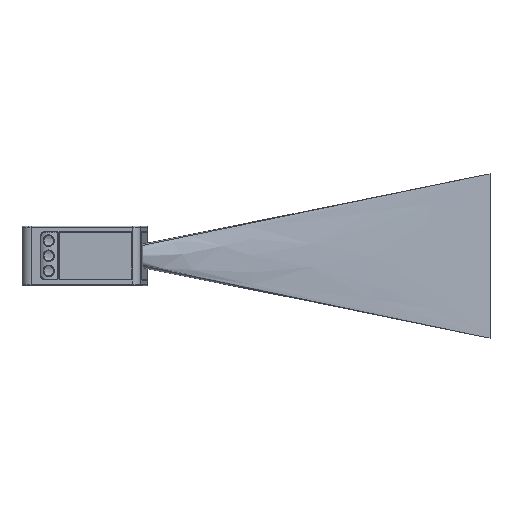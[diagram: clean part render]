
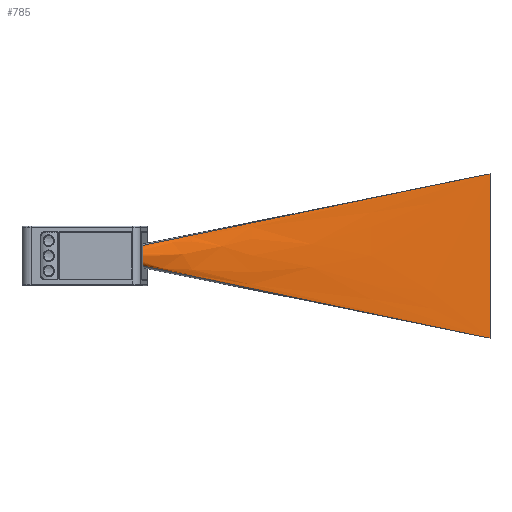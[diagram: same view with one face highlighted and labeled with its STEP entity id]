
A CAD part, top view. The second image highlights one B-rep face of the part: STEP entity #785.
In plain terms, the highlighted free-form (B-spline) face has degree [3, 3] with [10, 4] control points.
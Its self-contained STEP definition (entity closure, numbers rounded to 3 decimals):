
#785 = ADVANCED_FACE( '', ( #1677 ), #1678, .T. );
#1677 = FACE_OUTER_BOUND( '', #5417, .T. );
#1678 = B_SPLINE_SURFACE_WITH_KNOTS( '', 3, 3, ( ( #5418, #5419, #5420, #5421 ), ( #5422, #5423, #5424, #5425 ), ( #5426, #5427, #5428, #5429 ), ( #5430, #5431, #5432, #5433 ), ( #5434, #5435, #5436, #5437 ), ( #5438, #5439, #5440, #5441 ), ( #5442, #5443, #5444, #5445 ), ( #5446, #5447, #5448, #5449 ), ( #5450, #5451, #5452, #5453 ), ( #5454, #5455, #5456, #5457 ) ), .UNSPECIFIED., .F., .F., .F., ( 4, 2, 2, 2, 4 ), ( 4, 4 ), ( 0., 0.25, 0.5, 0.75, 1. ), ( 0., 1. ), .UNSPECIFIED. );
#5417 = EDGE_LOOP( '', ( #8729, #8730, #8731, #8732 ) );
#5418 = CARTESIAN_POINT( '', ( -6.765, 3.668, 31.647 ) );
#5419 = CARTESIAN_POINT( '', ( 45.49, 14.445, 21.598 ) );
#5420 = CARTESIAN_POINT( '', ( 97.745, 25.223, 11.549 ) );
#5421 = CARTESIAN_POINT( '', ( 150., 36., 1.5 ) );
#5422 = CARTESIAN_POINT( '', ( -6.662, 3.324, 32.254 ) );
#5423 = CARTESIAN_POINT( '', ( 45.559, 12.216, 22.002 ) );
#5424 = CARTESIAN_POINT( '', ( 97.779, 21.108, 11.751 ) );
#5425 = CARTESIAN_POINT( '', ( 150., 30., 1.5 ) );
#5426 = CARTESIAN_POINT( '', ( -6.573, 2.824, 32.772 ) );
#5427 = CARTESIAN_POINT( '', ( 45.618, 9.883, 22.348 ) );
#5428 = CARTESIAN_POINT( '', ( 97.809, 16.941, 11.924 ) );
#5429 = CARTESIAN_POINT( '', ( 150., 24., 1.5 ) );
#5430 = CARTESIAN_POINT( '', ( -6.447, 1.631, 33.508 ) );
#5431 = CARTESIAN_POINT( '', ( 45.702, 5.087, 22.839 ) );
#5432 = CARTESIAN_POINT( '', ( 97.851, 8.544, 12.169 ) );
#5433 = CARTESIAN_POINT( '', ( 150., 12., 1.5 ) );
#5434 = CARTESIAN_POINT( '', ( -6.41, 0.939, 33.724 ) );
#5435 = CARTESIAN_POINT( '', ( 45.727, 2.626, 22.983 ) );
#5436 = CARTESIAN_POINT( '', ( 97.863, 4.313, 12.241 ) );
#5437 = CARTESIAN_POINT( '', ( 150., 6., 1.5 ) );
#5438 = CARTESIAN_POINT( '', ( -6.397, -0.467, 33.802 ) );
#5439 = CARTESIAN_POINT( '', ( 45.735, -2.311, 23.035 ) );
#5440 = CARTESIAN_POINT( '', ( 97.868, -4.156, 12.267 ) );
#5441 = CARTESIAN_POINT( '', ( 150., -6., 1.5 ) );
#5442 = CARTESIAN_POINT( '', ( -6.421, -1.179, 33.664 ) );
#5443 = CARTESIAN_POINT( '', ( 45.72, -4.786, 22.942 ) );
#5444 = CARTESIAN_POINT( '', ( 97.86, -8.393, 12.221 ) );
#5445 = CARTESIAN_POINT( '', ( 150., -12., 1.5 ) );
#5446 = CARTESIAN_POINT( '', ( -6.523, -2.449, 33.064 ) );
#5447 = CARTESIAN_POINT( '', ( 45.651, -9.633, 22.543 ) );
#5448 = CARTESIAN_POINT( '', ( 97.826, -16.816, 12.021 ) );
#5449 = CARTESIAN_POINT( '', ( 150., -24., 1.5 ) );
#5450 = CARTESIAN_POINT( '', ( -6.602, -3.005, 32.604 ) );
#5451 = CARTESIAN_POINT( '', ( 45.599, -12.003, 22.236 ) );
#5452 = CARTESIAN_POINT( '', ( 97.799, -21.002, 11.868 ) );
#5453 = CARTESIAN_POINT( '', ( 150., -30., 1.5 ) );
#5454 = CARTESIAN_POINT( '', ( -6.698, -3.415, 32.04 ) );
#5455 = CARTESIAN_POINT( '', ( 45.535, -14.277, 21.86 ) );
#5456 = CARTESIAN_POINT( '', ( 97.767, -25.138, 11.68 ) );
#5457 = CARTESIAN_POINT( '', ( 150., -36., 1.5 ) );
#8729 = ORIENTED_EDGE( '', *, *, #10354, .T. );
#8730 = ORIENTED_EDGE( '', *, *, #10368, .F. );
#8731 = ORIENTED_EDGE( '', *, *, #10061, .F. );
#8732 = ORIENTED_EDGE( '', *, *, #10149, .T. );
#10061 = EDGE_CURVE( '', #11353, #11354, #11355, .T. );
#10149 = EDGE_CURVE( '', #11353, #11480, #11482, .T. );
#10354 = EDGE_CURVE( '', #11480, #11727, #11730, .T. );
#10368 = EDGE_CURVE( '', #11354, #11727, #11743, .F. );
#11353 = VERTEX_POINT( '', #13995 );
#11354 = VERTEX_POINT( '', #13996 );
#11355 = B_SPLINE_CURVE_WITH_KNOTS( '', 3, ( #13997, #13998, #13999, #14000 ), .UNSPECIFIED., .F., .F., ( 4, 4 ), ( 0., 1. ), .UNSPECIFIED. );
#11480 = VERTEX_POINT( '', #14785 );
#11482 = B_SPLINE_CURVE_WITH_KNOTS( '', 3, ( #14796, #14797, #14798, #14799, #14800, #14801, #14802, #14803, #14804, #14805 ), .UNSPECIFIED., .F., .F., ( 4, 2, 2, 2, 4 ), ( 0., 0.25, 0.5, 0.75, 1. ), .UNSPECIFIED. );
#11727 = VERTEX_POINT( '', #15164 );
#11730 = B_SPLINE_CURVE_WITH_KNOTS( '', 3, ( #15168, #15169, #15170, #15171 ), .UNSPECIFIED., .F., .F., ( 4, 4 ), ( 0., 1. ), .UNSPECIFIED. );
#11743 = LINE( '', #15188, #15189 );
#13995 = CARTESIAN_POINT( '', ( -6.765, 3.668, 31.647 ) );
#13996 = CARTESIAN_POINT( '', ( 150., 36., 1.5 ) );
#13997 = CARTESIAN_POINT( '', ( -6.765, 3.668, 31.647 ) );
#13998 = CARTESIAN_POINT( '', ( 45.49, 14.445, 21.598 ) );
#13999 = CARTESIAN_POINT( '', ( 97.745, 25.223, 11.549 ) );
#14000 = CARTESIAN_POINT( '', ( 150., 36., 1.5 ) );
#14785 = CARTESIAN_POINT( '', ( -6.698, -3.415, 32.04 ) );
#14796 = CARTESIAN_POINT( '', ( -6.765, 3.668, 31.647 ) );
#14797 = CARTESIAN_POINT( '', ( -6.662, 3.324, 32.254 ) );
#14798 = CARTESIAN_POINT( '', ( -6.573, 2.824, 32.772 ) );
#14799 = CARTESIAN_POINT( '', ( -6.447, 1.631, 33.508 ) );
#14800 = CARTESIAN_POINT( '', ( -6.41, 0.939, 33.724 ) );
#14801 = CARTESIAN_POINT( '', ( -6.397, -0.467, 33.802 ) );
#14802 = CARTESIAN_POINT( '', ( -6.421, -1.179, 33.664 ) );
#14803 = CARTESIAN_POINT( '', ( -6.523, -2.449, 33.064 ) );
#14804 = CARTESIAN_POINT( '', ( -6.602, -3.005, 32.604 ) );
#14805 = CARTESIAN_POINT( '', ( -6.698, -3.415, 32.04 ) );
#15164 = CARTESIAN_POINT( '', ( 150., -36., 1.5 ) );
#15168 = CARTESIAN_POINT( '', ( -6.698, -3.415, 32.04 ) );
#15169 = CARTESIAN_POINT( '', ( 45.535, -14.277, 21.86 ) );
#15170 = CARTESIAN_POINT( '', ( 97.767, -25.138, 11.68 ) );
#15171 = CARTESIAN_POINT( '', ( 150., -36., 1.5 ) );
#15188 = CARTESIAN_POINT( '', ( 150., 36., 1.5 ) );
#15189 = VECTOR( '', #16515, 1000. );
#16515 = DIRECTION( '', ( 0., 1., 0. ) );
